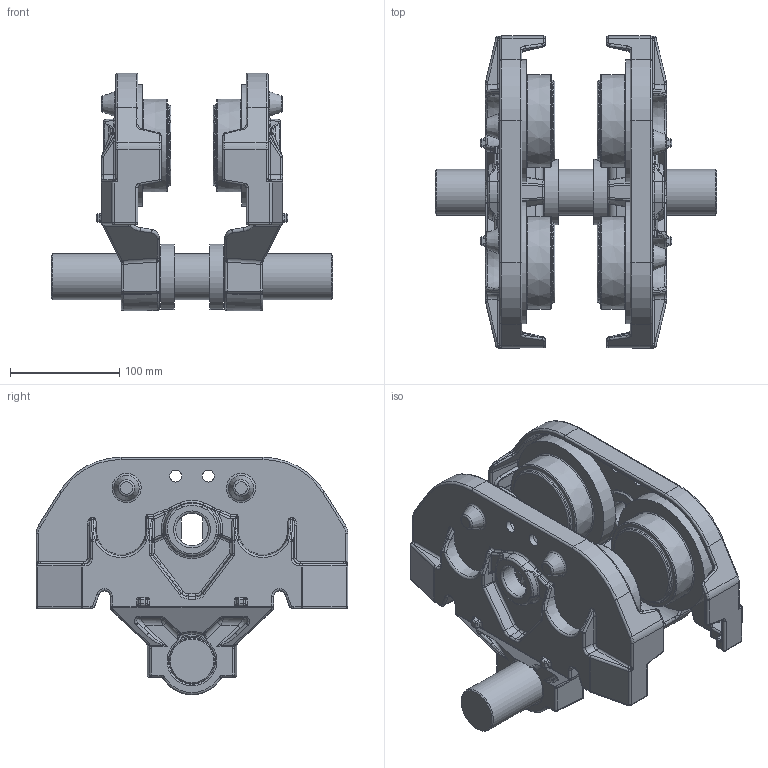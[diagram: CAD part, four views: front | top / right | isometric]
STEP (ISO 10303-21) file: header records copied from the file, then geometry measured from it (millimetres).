
FILE_DESCRIPTION(/* description */ (''),/* implementation_level */ '2;1');
FILE_NAME(/* name */ 'G:\Technik\3D-Dateien light_2015_10_02\Hebezeuge\Fahrwerke\9249.9201.L GHF,GHFR2500.stp',/* time_stamp */ '2020-09-08T14:54:51+02:00',/* author */ ('gispen'),/* organization */ (''),/* preprocessor_version */ 'ST-DEVELOPER v17.2',/* originating_system */ 'Autodesk Inventor 2019',/* authorisation */ '');
FILE_SCHEMA (('CONFIG_CONTROL_DESIGN'));
Length unit declared in the file: millimetre
Products named in the file (3): 9249.9201.L; 9249.9305.L; 9249.9313.L
Assembly tree (3 placements, depth 2):
  9249.9201.L
    9249.9305.L
    9249.9313.L  x2
Bounding box: 258 x 286 x 217.65 mm (x, y, z)
Volume: 2947643.9 mm3; surface area: 415338.9 mm2
Topology: 3 solids, 5 shells, 1731 faces, 4095 edges, 2334 vertices
Faces by surface type: cylinder 603, bspline 508, plane 260, torus 182, sphere 136, cone 42
Full cylindrical faces by diameter (mm): 11 x4, 30 x2, 42 x5, 60 x2, 111.797 x4
Entity records: 33215 total; most frequent: CARTESIAN_POINT 12807, DIRECTION 4189, ORIENTED_EDGE 4064, EDGE_CURVE 2032, AXIS2_PLACEMENT_3D 1787, VERTEX_POINT 1178, EDGE_LOOP 892, FACE_OUTER_BOUND 872
